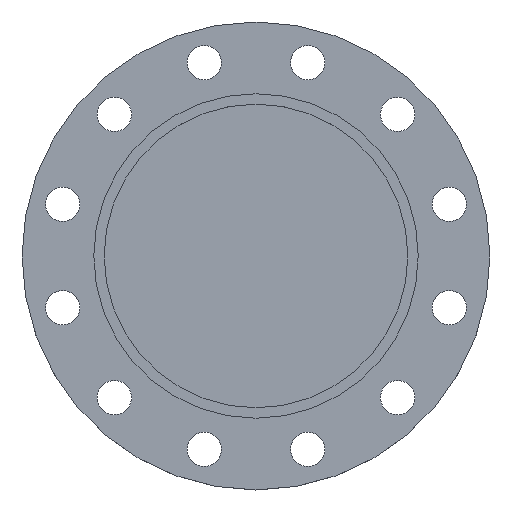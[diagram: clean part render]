
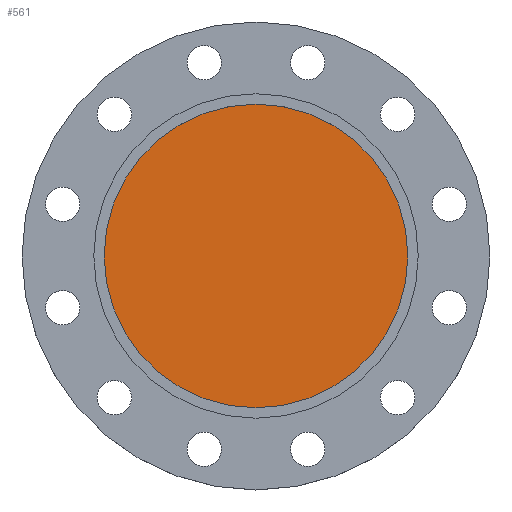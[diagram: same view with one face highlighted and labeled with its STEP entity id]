
A CAD part, top view. The second image highlights one B-rep face of the part: STEP entity #561.
In plain terms, the highlighted planar face has unit normal (0, 0, 1).
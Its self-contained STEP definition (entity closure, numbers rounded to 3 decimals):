
#117 = DIRECTION ( 'NONE',  ( -1., 0., 0. ) ) ;
#118 = DIRECTION ( 'NONE',  ( 0., 0., -1. ) ) ;
#119 = CARTESIAN_POINT ( 'NONE',  ( 0., 0., -5. ) ) ;
#121 = CARTESIAN_POINT ( 'NONE',  ( 146., 0., -5. ) ) ;
#271 = AXIS2_PLACEMENT_3D ( 'NONE', #600, #599, #598 ) ;
#378 = AXIS2_PLACEMENT_3D ( 'NONE', #119, #118, #117 ) ;
#436 = CARTESIAN_POINT ( 'NONE',  ( -146., 0., -5. ) ) ;
#455 = DIRECTION ( 'NONE',  ( -1., 0., 0. ) ) ;
#456 = DIRECTION ( 'NONE',  ( 0., 0., -1. ) ) ;
#457 = CARTESIAN_POINT ( 'NONE',  ( 0., 0., -5. ) ) ;
#527 = CIRCLE ( 'NONE', #531, 146. ) ;
#531 = AXIS2_PLACEMENT_3D ( 'NONE', #457, #456, #455 ) ;
#561 = ADVANCED_FACE ( 'NONE', ( #602 ), #601, .T. ) ;
#598 = DIRECTION ( 'NONE',  ( 1., 0., 0. ) ) ;
#599 = DIRECTION ( 'NONE',  ( 0., 0., 1. ) ) ;
#600 = CARTESIAN_POINT ( 'NONE',  ( 146., 0., -5. ) ) ;
#601 = PLANE ( 'NONE',  #271 ) ;
#602 = FACE_OUTER_BOUND ( 'NONE', #1284, .T. ) ;
#840 = EDGE_CURVE ( 'NONE', #906, #1222, #527, .T. ) ;
#906 = VERTEX_POINT ( 'NONE', #436 ) ;
#958 = ORIENTED_EDGE ( 'NONE', *, *, #840, .F. ) ;
#960 = ORIENTED_EDGE ( 'NONE', *, *, #1223, .F. ) ;
#1181 = CIRCLE ( 'NONE', #378, 146. ) ;
#1222 = VERTEX_POINT ( 'NONE', #121 ) ;
#1223 = EDGE_CURVE ( 'NONE', #1222, #906, #1181, .T. ) ;
#1284 = EDGE_LOOP ( 'NONE', ( #958, #960 ) ) ;
